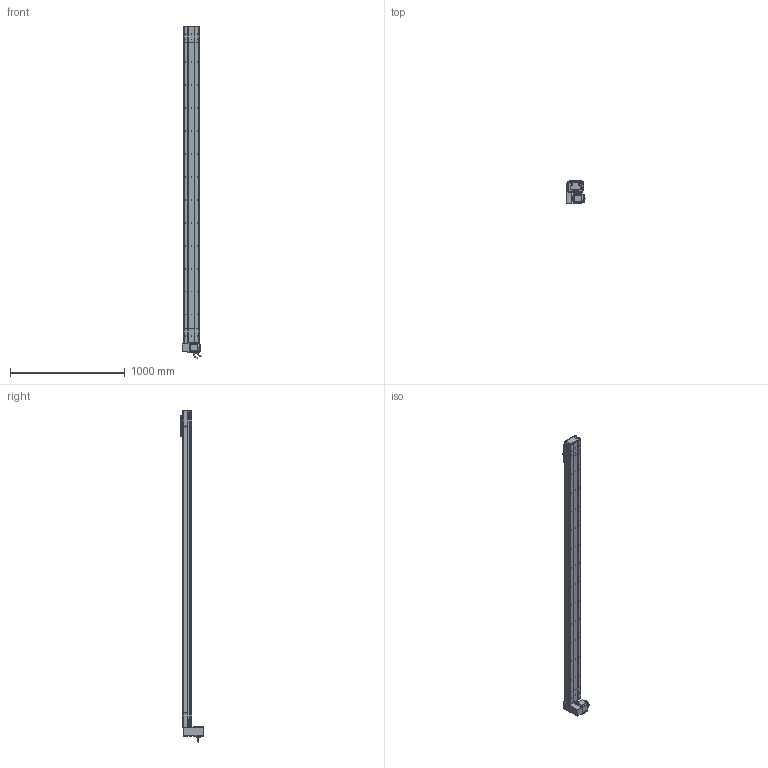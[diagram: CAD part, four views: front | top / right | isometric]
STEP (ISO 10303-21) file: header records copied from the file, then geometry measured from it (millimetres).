
FILE_DESCRIPTION (( 'STEP AP214' ), '1' );
FILE_NAME ('D14 CBH S2500 RU.STEP', '2010-06-30T07:25:41', ( 'Conseil Régional Haute-Normandie' ), ( 'Conseil Régional Haute-Normandie' ), 'SwSTEP 2.0', 'SolidWorks 2010', '' );
FILE_SCHEMA (( 'AUTOMOTIVE_DESIGN' ));
Length unit declared in the file: millimetre
Products named in the file (28): vis CHC M5; chariot supérieur D14; Head D14 CBH RU; Conecteur_Default; Conecteur2_Default; codeur GMB 90 70 310; corps GMB 90 70 310; avant GMB 90 70 310; GMB 90 70 310; Support moteur Head D14 CBH; plaque fermeture Head D14 CBH; vis CHC M7; plaque de bout Head D14 CBH; corps Head D14 CBH; couvercle Head D14 CBH; Vis CHC M8; plaque de maintient CBH D14; Head D14 CBH; D14 CBH S2500 RU; couvercle CBH S2500; corps CBH S2500; Course CBH S2500; plaque de bout tail CBH d14; corps tail  CBH d14 A; Tail CBH D14 A; charriot inférieur D14; chariot D14; couvercle tail CBH D14
Assembly tree (51 placements, depth 4):
  D14 CBH S2500 RU
    Head D14 CBH RU
      plaque fermeture Head D14 CBH  x3
      GMB 90 70 310
        corps GMB 90 70 310
        codeur GMB 90 70 310
        avant GMB 90 70 310
        Conecteur2_Default
        Conecteur_Default
      Head D14 CBH
        Vis CHC M8  x2
        corps Head D14 CBH
        couvercle Head D14 CBH
        vis CHC M7  x4
        plaque de maintient CBH D14
        plaque de bout Head D14 CBH
      Support moteur Head D14 CBH
    chariot D14
      vis CHC M7  x8
      vis CHC M5  x4
      chariot supérieur D14
      charriot inférieur D14
    Course CBH S2500
      couvercle CBH S2500
      corps CBH S2500
    Tail CBH D14 A
      vis CHC M7  x4
      couvercle tail CBH D14
      plaque de maintient CBH D14
      Vis CHC M8  x2
      corps tail  CBH d14 A
      plaque de bout tail CBH d14
Bounding box: 171.5 x 195.75 x 2895.95 mm (x, y, z)
Volume: 7969506.9 mm3; surface area: 2712609.2 mm2
Topology: 51 solids, 51 shells, 2510 faces, 6514 edges, 4278 vertices
Faces by surface type: plane 1371, bspline 538, cylinder 488, torus 61, cone 48, sphere 4
Entity records: 111145 total; most frequent: CARTESIAN_POINT 58480, ORIENTED_EDGE 11324, DIRECTION 8663, EDGE_CURVE 5662, VERTEX_POINT 3742, VECTOR 3725, LINE 3725, AXIS2_PLACEMENT_3D 2469
